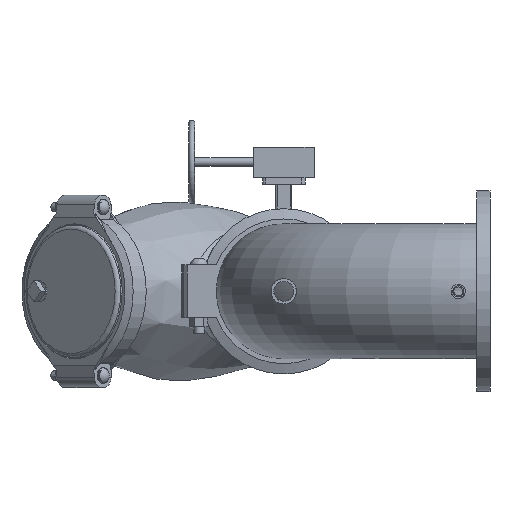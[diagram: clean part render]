
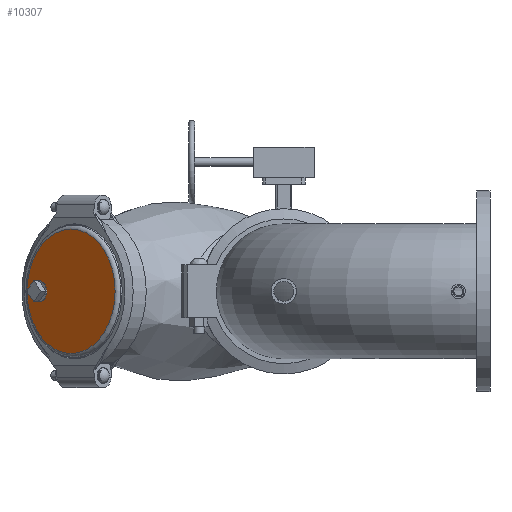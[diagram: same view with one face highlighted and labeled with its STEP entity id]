
A CAD part, front view. The second image highlights one B-rep face of the part: STEP entity #10307.
In plain terms, the highlighted planar face has unit normal (-0.707, -0.707, 0) as drawn and (1, 0, 0) by its records, which use the part's own axes.
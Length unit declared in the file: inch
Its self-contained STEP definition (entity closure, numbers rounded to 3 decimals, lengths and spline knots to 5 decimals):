
#1977=FACE_BOUND('',#2954,.T.);
#2335=FACE_OUTER_BOUND('',#2953,.T.);
#2953=EDGE_LOOP('',(#7642,#7643));
#2954=EDGE_LOOP('',(#7644));
#3571=CIRCLE('',#11410,1.);
#3579=CIRCLE('',#11421,5.8855);
#3580=CIRCLE('',#11422,5.8855);
#4365=VERTEX_POINT('',#21069);
#4373=VERTEX_POINT('',#21090);
#4374=VERTEX_POINT('',#21091);
#5546=EDGE_CURVE('',#4365,#4365,#3571,.T.);
#5555=EDGE_CURVE('',#4373,#4374,#3579,.T.);
#5556=EDGE_CURVE('',#4374,#4373,#3580,.T.);
#7642=ORIENTED_EDGE('',*,*,#5555,.T.);
#7643=ORIENTED_EDGE('',*,*,#5556,.T.);
#7644=ORIENTED_EDGE('',*,*,#5546,.T.);
#9293=PLANE('',#11424);
#10307=ADVANCED_FACE('',(#2335,#1977),#9293,.T.);
#11410=AXIS2_PLACEMENT_3D('',#21071,#13453,#13454);
#11421=AXIS2_PLACEMENT_3D('',#21092,#13476,#13477);
#11422=AXIS2_PLACEMENT_3D('',#21093,#13478,#13479);
#11424=AXIS2_PLACEMENT_3D('',#21095,#13482,#13483);
#13453=DIRECTION('center_axis',(-1.,0.,0.));
#13454=DIRECTION('ref_axis',(0.,0.,1.));
#13476=DIRECTION('center_axis',(1.,0.,0.));
#13477=DIRECTION('ref_axis',(0.,0.,-1.));
#13478=DIRECTION('center_axis',(1.,0.,0.));
#13479=DIRECTION('ref_axis',(0.,0.,-1.));
#13482=DIRECTION('center_axis',(1.,0.,0.));
#13483=DIRECTION('ref_axis',(0.,0.,-1.));
#21069=CARTESIAN_POINT('',(1.68,4.25,-1.));
#21071=CARTESIAN_POINT('Origin',(1.68,4.25,0.));
#21090=CARTESIAN_POINT('',(1.68,5.8855,0.));
#21091=CARTESIAN_POINT('',(1.68,0.,5.8855));
#21092=CARTESIAN_POINT('Origin',(1.68,0.,0.));
#21093=CARTESIAN_POINT('Origin',(1.68,0.,0.));
#21095=CARTESIAN_POINT('Origin',(1.68,0.,0.));
